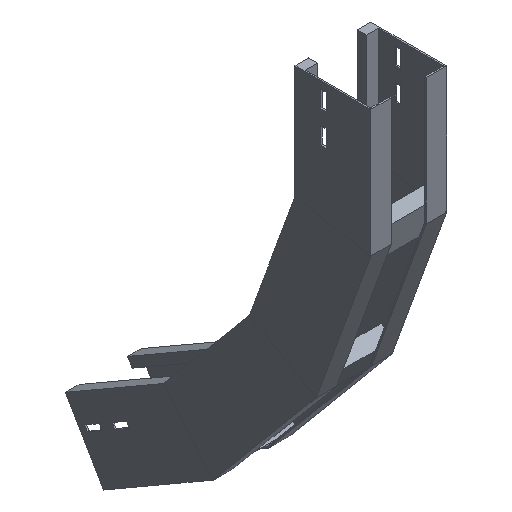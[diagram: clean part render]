
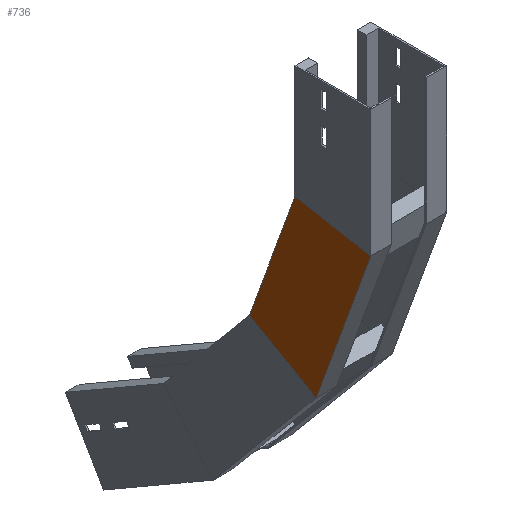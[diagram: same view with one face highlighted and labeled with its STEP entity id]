
A CAD part, isometric view. The second image highlights one B-rep face of the part: STEP entity #736.
In plain terms, the highlighted planar face has unit normal (-1, 0, 0) as drawn and (1, 0, 0) by its records, which use the part's own axes.
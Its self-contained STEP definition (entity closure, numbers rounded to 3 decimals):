
#46 = CARTESIAN_POINT ( 'NONE',  ( 0., 231.456, -499.4 ) ) ;
#51 = LINE ( 'NONE', #999, #1154 ) ;
#83 = VECTOR ( 'NONE', #773, 1000. ) ;
#119 = DIRECTION ( 'NONE',  ( 0., 0., 1. ) ) ;
#133 = DIRECTION ( 'NONE',  ( -1., 0., 0. ) ) ;
#226 = VERTEX_POINT ( 'NONE', #448 ) ;
#230 = DIRECTION ( 'NONE',  ( 0., -0.866, -0.5 ) ) ;
#299 = DIRECTION ( 'NONE',  ( 0., 0.643, -0.766 ) ) ;
#321 = ORIENTED_EDGE ( 'NONE', *, *, #611, .F. ) ;
#331 = EDGE_LOOP ( 'NONE', ( #568, #1255, #340, #321 ) ) ;
#340 = ORIENTED_EDGE ( 'NONE', *, *, #1279, .T. ) ;
#382 = VECTOR ( 'NONE', #230, 1000. ) ;
#431 = DIRECTION ( 'NONE',  ( 0., -0.643, -0.766 ) ) ;
#448 = CARTESIAN_POINT ( 'NONE',  ( 0., 160.139, -314.998 ) ) ;
#465 = EDGE_CURVE ( 'NONE', #226, #929, #1145, .T. ) ;
#495 = EDGE_CURVE ( 'NONE', #226, #1103, #741, .T. ) ;
#568 = ORIENTED_EDGE ( 'NONE', *, *, #495, .F. ) ;
#611 = EDGE_CURVE ( 'NONE', #1103, #1551, #1618, .T. ) ;
#613 = CARTESIAN_POINT ( 'NONE',  ( 0., 103.946, -347.441 ) ) ;
#736 = ADVANCED_FACE ( 'NONE', ( #1037 ), #1169, .F. ) ;
#741 = LINE ( 'NONE', #1666, #83 ) ;
#748 = AXIS2_PLACEMENT_3D ( 'NONE', #1564, #133, #119 ) ;
#773 = DIRECTION ( 'NONE',  ( 0., 0.643, -0.766 ) ) ;
#929 = VERTEX_POINT ( 'NONE', #1480 ) ;
#946 = CARTESIAN_POINT ( 'NONE',  ( 0., 273.163, -449.695 ) ) ;
#999 = CARTESIAN_POINT ( 'NONE',  ( 0., 72.2, -365.769 ) ) ;
#1037 = FACE_OUTER_BOUND ( 'NONE', #331, .T. ) ;
#1103 = VERTEX_POINT ( 'NONE', #946 ) ;
#1145 = LINE ( 'NONE', #613, #382 ) ;
#1154 = VECTOR ( 'NONE', #299, 1000. ) ;
#1168 = CARTESIAN_POINT ( 'NONE',  ( 0., 207.893, -527.481 ) ) ;
#1169 = PLANE ( 'NONE',  #748 ) ;
#1255 = ORIENTED_EDGE ( 'NONE', *, *, #465, .T. ) ;
#1279 = EDGE_CURVE ( 'NONE', #929, #1551, #51, .T. ) ;
#1479 = VECTOR ( 'NONE', #431, 1000. ) ;
#1480 = CARTESIAN_POINT ( 'NONE',  ( 0., 72.2, -365.769 ) ) ;
#1551 = VERTEX_POINT ( 'NONE', #1168 ) ;
#1564 = CARTESIAN_POINT ( 'NONE',  ( 0., 72.2, -365.769 ) ) ;
#1618 = LINE ( 'NONE', #46, #1479 ) ;
#1666 = CARTESIAN_POINT ( 'NONE',  ( 0., 148.805, -301.49 ) ) ;
